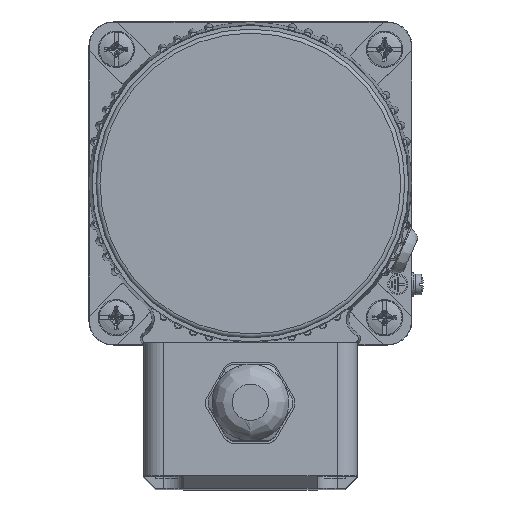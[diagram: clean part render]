
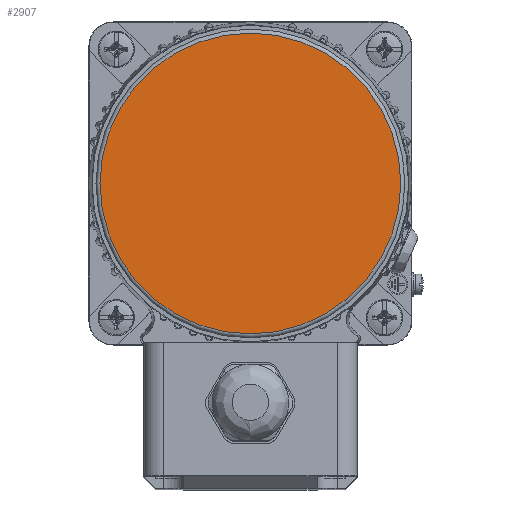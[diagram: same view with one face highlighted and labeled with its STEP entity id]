
A CAD part, left-side view. The second image highlights one B-rep face of the part: STEP entity #2907.
In plain terms, the highlighted planar face has unit normal (-1, 0, 0).
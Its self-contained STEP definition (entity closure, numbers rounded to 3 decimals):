
#2104=FACE_OUTER_BOUND('',#5914,.T.);
#2907=ADVANCED_FACE('',(#2104),#3844,.F.);
#3844=PLANE('',#16336);
#5914=EDGE_LOOP('',(#7568));
#7568=ORIENTED_EDGE('',*,*,#13448,.T.);
#11816=VERTEX_POINT('',#21954);
#13448=EDGE_CURVE('',#11816,#11816,#15660,.T.);
#15660=CIRCLE('',#16335,37.25);
#16335=AXIS2_PLACEMENT_3D('',#21953,#18035,#18036);
#16336=AXIS2_PLACEMENT_3D('',#21955,#18037,#18038);
#18035=DIRECTION('',(-1.,0.,0.));
#18036=DIRECTION('',(0.,0.,-1.));
#18037=DIRECTION('',(1.,0.,0.));
#18038=DIRECTION('',(0.,0.,-1.));
#21953=CARTESIAN_POINT('',(-86.,40.,40.));
#21954=CARTESIAN_POINT('',(-86.,40.,2.75));
#21955=CARTESIAN_POINT('',(-86.,40.,78.25));
